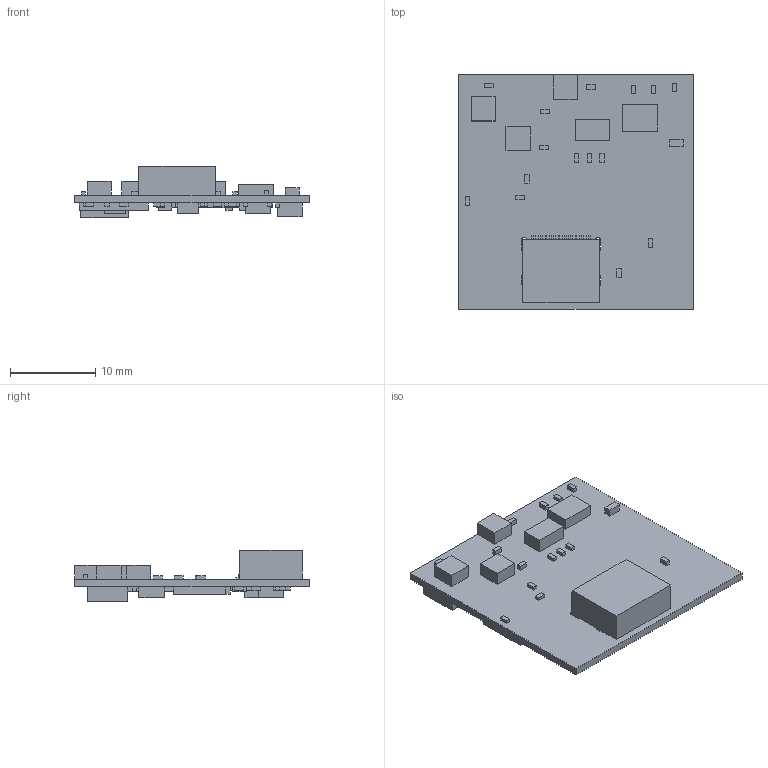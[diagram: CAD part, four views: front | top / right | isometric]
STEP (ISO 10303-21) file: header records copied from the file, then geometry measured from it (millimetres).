
FILE_DESCRIPTION(('Open CASCADE Model'),'2;1');
FILE_NAME('Open CASCADE Shape Model','2026-10-29T13:47:48',('Author'),( 'Open CASCADE'),'Open CASCADE STEP processor 7.9','Open CASCADE 7.9' ,'Unknown');
FILE_SCHEMA(('AUTOMOTIVE_DESIGN { 1 0 10303 214 1 1 1 1 }'));
Length unit declared in the file: millimetre
Products named in the file (1): Open CASCADE STEP translator 7.9 1
Bounding box: 27.5 x 27.5 x 5.98 mm (x, y, z)
Volume: 1159.1 mm3; surface area: 2063.2 mm2
Topology: 1 solids, 1 shells, 429 faces, 1089 edges, 726 vertices
Faces by surface type: plane 412, bspline 17
Entity records: 26370 total; most frequent: CARTESIAN_POINT 6437, DIRECTION 2905, ORIENTED_EDGE 2178, PCURVE 2178, DEFINITIONAL_REPRESENTATION 2178, LINE 2079, VECTOR 2079, B_SPLINE_CURVE_WITH_KNOTS 1154
